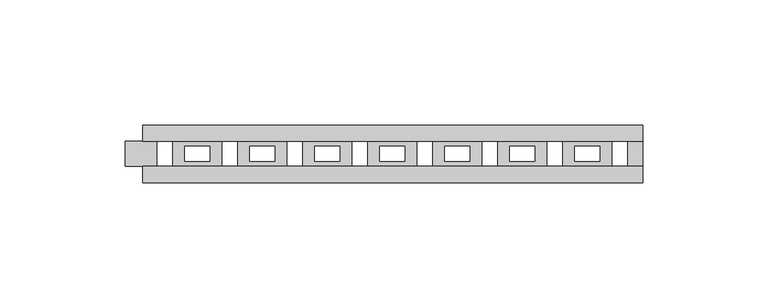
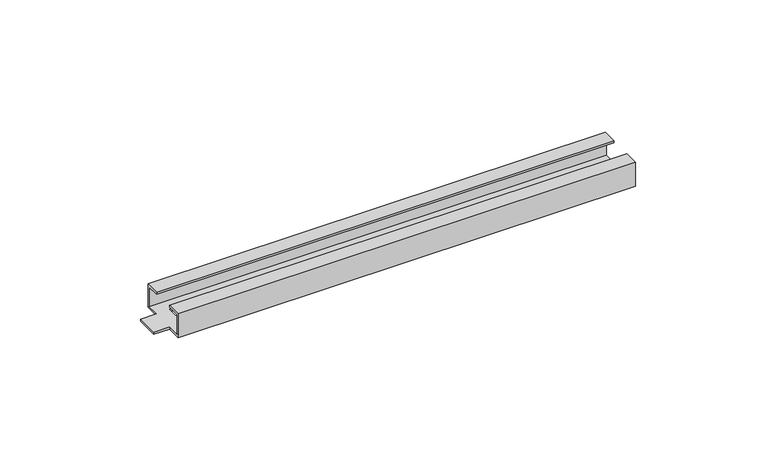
"""IFC4 building model written with IfcOpenShell, lengths in millimetres: cable carrier fitting geometry, КНС_НаправляющаяДляКрепленияДержателей_DKC : Направляющая для крепления держателей."""

import ifcopenshell
import ifcopenshell.guid

model = None  # the IFC model being written
_history = None  # IfcOwnerHistory: only IFC2X3 demands one
_inside = {}  # id of a spatial element -> (the spatial element, [elements in it])
_under = {}  # id of a project, library or spatial element -> (it, [spatial elements below it])
_declared = {}  # id of a project -> (the project, [libraries it declares])
_typed = {}  # id of a type object -> (the type object, [elements of that type])
_made_of = {}  # id of a material, layer set ... -> (it, [elements and type objects made of it])


def new_model(schema):
    """Start an empty IFC model of exactly this schema.

    Asked for "IFC4X3", IfcOpenShell would pick the latest addendum, in which some entities
    have other attributes; the version numbers below select the first issue.
    IFC2X3 requires an IfcOwnerHistory on every rooted entity: one is made here for all.
    """
    global model, _history
    if schema == "IFC4X3":
        model = ifcopenshell.file(schema_version=(4, 3, 0, 0))
    else:
        model = ifcopenshell.file(schema=schema)
    _inside.clear()
    _under.clear()
    _declared.clear()
    _typed.clear()
    _made_of.clear()
    _history = None
    if model.schema == "IFC2X3":
        org = make("IfcOrganization", Name="unknown")
        user = make(
            "IfcPersonAndOrganization",
            ThePerson=make("IfcPerson", FamilyName="unknown"),
            TheOrganization=org,
        )
        app = make(
            "IfcApplication",
            ApplicationDeveloper=org,
            Version="unknown",
            ApplicationFullName="unknown",
            ApplicationIdentifier="unknown",
        )
        _history = make(
            "IfcOwnerHistory",
            OwningUser=user,
            OwningApplication=app,
            ChangeAction="ADDED",
            CreationDate=0,
        )
    return model


def make(cls, **values):
    """One entity of the class cls with the attributes given. An attribute that is None is left unset."""
    return model.create_entity(
        cls, **{name: value for name, value in values.items() if value is not None}
    )


def rooted(cls, **values):
    """An entity with a GlobalId (a new one), such as an element, a storey or a relation."""
    return make(cls, GlobalId=ifcopenshell.guid.new(), OwnerHistory=_history, **values)


def si_unit(unit_type, name, prefix=None):
    """IfcSIUnit, for example si_unit("LENGTHUNIT", "METRE", prefix="MILLI")."""
    return make("IfcSIUnit", UnitType=unit_type, Prefix=prefix, Name=name)


def assignment(units):
    """IfcUnitAssignment: the units of a project."""
    return None if units is None else make("IfcUnitAssignment", Units=units)


def point(xyz):
    """IfcCartesianPoint."""
    return None if xyz is None else make("IfcCartesianPoint", Coordinates=xyz)


def direction(xyz):
    """IfcDirection."""
    return None if xyz is None else make("IfcDirection", DirectionRatios=xyz)


def frame(location, z_axis=None, x_axis=None):
    """IfcAxis2Placement3D, a coordinate frame: its origin and axes. An axis left out is left unset."""
    return make(
        "IfcAxis2Placement3D",
        Location=point(location),
        Axis=direction(z_axis),
        RefDirection=direction(x_axis),
    )


def origin():
    """The frame at (0, 0, 0) with its axes left unset."""
    return frame((0.0, 0.0, 0.0))


def place(relative_to, where):
    """IfcLocalPlacement: puts the frame where relative to a parent placement (None: the world)."""
    return make(
        "IfcLocalPlacement", PlacementRelTo=relative_to, RelativePlacement=where
    )


def context(
    kind, dimensions, precision=None, world=None, true_north=None, identifier=None
):
    """IfcGeometricRepresentationContext, for example the 3D "Model" context."""
    return make(
        "IfcGeometricRepresentationContext",
        ContextIdentifier=identifier,
        ContextType=kind,
        CoordinateSpaceDimension=dimensions,
        Precision=precision,
        WorldCoordinateSystem=world,
        TrueNorth=true_north,
    )


def project(units=None, contexts=None):
    """IfcProject with its units and contexts."""
    return rooted(
        "IfcProject",
        Name="project",
        RepresentationContexts=contexts,
        UnitsInContext=assignment(units),
    )


def spatial(cls, under=None, at=None, **own):
    """A site, building, storey or space (cls), placed at a placement, below another one or the project."""
    s = rooted(cls, ObjectPlacement=at, **own)
    if under is not None:
        _under.setdefault(under.id(), (under, []))[1].append(s)
    return s


def faces_of(points, faces, orient=None, outer=None):
    """IfcFace entities. A face is a list of loops; a loop is a list of indices into points, from 0.

    orient and outer hold one flag for each loop. By default every Orientation is true, the
    first loop of a face is its IfcFaceOuterBound and the others are IfcFaceBound.
    """
    made = []
    for i, loops in enumerate(faces):
        bounds = []
        for j, loop in enumerate(loops):
            is_outer = j == 0 if outer is None else outer[i][j]
            bounds.append(
                make(
                    "IfcFaceOuterBound" if is_outer else "IfcFaceBound",
                    Bound=make("IfcPolyLoop", Polygon=[points[k] for k in loop]),
                    Orientation=True if orient is None else orient[i][j],
                )
            )
        made.append(make("IfcFace", Bounds=bounds))
    return made


def faceted_brep(points, faces, orient=None, outer=None, voids=None):
    """IfcFacetedBrep: a solid bounded by flat faces; with voids (closed shells), ...WithVoids."""
    shared = [point(p) for p in points]
    hull = make("IfcClosedShell", CfsFaces=faces_of(shared, faces, orient, outer))
    if voids is None:
        return make("IfcFacetedBrep", Outer=hull)
    return make(
        "IfcFacetedBrepWithVoids",
        Outer=hull,
        Voids=[
            make(cls, CfsFaces=faces_of(shared, fs, o, b)) for cls, fs, o, b in voids
        ],
    )


def shape(context_of_items, identifier, shape_type, items):
    """IfcShapeRepresentation: the items that make up one representation, for example the "Body"."""
    return make(
        "IfcShapeRepresentation",
        ContextOfItems=context_of_items,
        RepresentationIdentifier=identifier,
        RepresentationType=shape_type,
        Items=items,
    )


def source(mapping_origin, context_of_items, identifier, shape_type, items):
    """IfcRepresentationMap: a shape defined once, which mapped items show again and again."""
    return make(
        "IfcRepresentationMap",
        MappingOrigin=mapping_origin,
        MappedRepresentation=shape(context_of_items, identifier, shape_type, items),
    )


def transform(
    local_origin,
    x_axis=None,
    y_axis=None,
    z_axis=None,
    scale=None,
    scale2=None,
    scale3=None,
    uniform=True,
):
    """IfcCartesianTransformationOperator3D, or its non-uniform kind. x_axis, y_axis, z_axis: its Axis1, 2, 3."""
    if uniform:
        return make(
            "IfcCartesianTransformationOperator3D",
            Axis1=direction(x_axis),
            Axis2=direction(y_axis),
            LocalOrigin=point(local_origin),
            Scale=scale,
            Axis3=direction(z_axis),
        )
    return make(
        "IfcCartesianTransformationOperator3DnonUniform",
        Axis1=direction(x_axis),
        Axis2=direction(y_axis),
        LocalOrigin=point(local_origin),
        Scale=scale,
        Axis3=direction(z_axis),
        Scale2=scale2,
        Scale3=scale3,
    )


def mapped(mapping_source, mapping_target):
    """IfcMappedItem: shows the shape of a source again, moved by a transform."""
    return make(
        "IfcMappedItem", MappingSource=mapping_source, MappingTarget=mapping_target
    )


def made_of(thing, what):
    """Note that an element or type object is made of a material, layer set ...; save() writes the relation."""
    if what is not None:
        _made_of.setdefault(what.id(), (what, []))[1].append(thing)
    return thing


def element(
    cls,
    number,
    at=None,
    inside=None,
    cuts=None,
    type_object=None,
    material=None,
    context=None,
    identifier="Body",
    shape_type=None,
    held_by="IfcProductDefinitionShape",
    body=None,
    shapes=None,
    **own,
):
    """One element of the class cls, such as IfcWall. Its Tag is "e" and its number.

    at: its placement. inside: the storey or other place that contains it. cuts: it is an
    opening in that element (IfcRelVoidsElement). A single representation is given by context,
    identifier, shape_type and body (its items); several are given by shapes. held_by: the class
    of the entity that holds the representations. save() writes the other relations.
    """
    e = rooted(cls, Tag="e%d" % number, ObjectPlacement=at, **own)
    if body is not None:
        shapes = [shape(context, identifier, shape_type, body)]
    if shapes is not None:
        e.Representation = make(held_by, Representations=shapes)
    if inside is not None:
        _inside.setdefault(inside.id(), (inside, []))[1].append(e)
    if cuts is not None:
        rooted(
            "IfcRelVoidsElement", RelatingBuildingElement=cuts, RelatedOpeningElement=e
        )
    if type_object is not None:
        _typed.setdefault(type_object.id(), (type_object, []))[1].append(e)
    return made_of(e, material)


def aggregate(whole, parts):
    """IfcRelAggregates: a whole, such as a stair, and the parts it consists of."""
    return rooted("IfcRelAggregates", RelatingObject=whole, RelatedObjects=parts)


def save(model, path):
    """Write the relations noted so far, then the file.

    IfcRelAggregates (storeys below a building ...), IfcRelContainedInSpatialStructure (elements
    in a storey), IfcRelDefinesByType, IfcRelAssociatesMaterial and IfcRelDeclares: one each for
    every whole, place, type object, material and project.
    """
    for whole, parts in _under.values():
        aggregate(whole, parts)
    for where, things in _inside.values():
        rooted(
            "IfcRelContainedInSpatialStructure",
            RelatedElements=things,
            RelatingStructure=where,
        )
    for kind, things in _typed.values():
        rooted("IfcRelDefinesByType", RelatedObjects=things, RelatingType=kind)
    for what, things in _made_of.values():
        rooted("IfcRelAssociatesMaterial", RelatedObjects=things, RelatingMaterial=what)
    for by, libraries in _declared.values():
        rooted("IfcRelDeclares", RelatingContext=by, RelatedDefinitions=libraries)
    model.write(path)


def cable_carrier_fitting_847e22f6(model_context):
    return source(origin(), model_context, "Body", "Brep", [
        faceted_brep([(-100.0, 5.0, 1.0), (-107.0, 5.0, 1.0), (-107.0, -5.0, 1.0), (-100.0, -5.0, 1.0), (-100.0, -10.5, 1.0), (100.0, -10.5, 1.0), (100.0, 10.5, 1.0), (-100.0, 10.5, 1.0), (-94.2402382, 5.0, 1.0), (-88.2402382, 5.0, 1.0), (-88.2402382, -5.0, 1.0), (-94.2402382, -5.0, 1.0), (-83.2402382, -3.0, 1.0), (-83.2402382, 3.0, 1.0), (-73.2402382, 3.0, 1.0), (-73.2402382, -3.0, 1.0), (-68.2402382, 5.0, 1.0), (-62.2402382, 5.0, 1.0), (-62.2402382, -5.0, 1.0), (-68.2402382, -5.0, 1.0), (-57.2402382, -3.0, 1.0), (-57.2402382, 3.0, 1.0), (-47.2402382, 3.0, 1.0), (-47.2402382, -3.0, 1.0), (-42.2402382, 5.0, 1.0), (-36.2402382, 5.0, 1.0), (-36.2402382, -5.0, 1.0), (-42.2402382, -5.0, 1.0), (-31.2402382, -3.0, 1.0), (-31.2402382, 3.0, 1.0), (-21.2402382, 3.0, 1.0), (-21.2402382, -3.0, 1.0), (-16.2402382, 5.0, 1.0), (-10.2402382, 5.0, 1.0), (-10.2402382, -5.0, 1.0), (-16.2402382, -5.0, 1.0), (-5.2402382, -3.0, 1.0), (-5.2402382, 3.0, 1.0), (4.7597618, 3.0, 1.0), (4.7597618, -3.0, 1.0), (9.7597618, 5.0, 1.0), (15.7597618, 5.0, 1.0), (15.7597618, -5.0, 1.0), (9.7597618, -5.0, 1.0), (20.7597618, -3.0, 1.0), (20.7597618, 3.0, 1.0), (30.7597618, 3.0, 1.0), (30.7597618, -3.0, 1.0), (35.7597618, 5.0, 1.0), (41.7597618, 5.0, 1.0), (41.7597618, -5.0, 1.0), (35.7597618, -5.0, 1.0), (46.7597618, -3.0, 1.0), (46.7597618, 3.0, 1.0), (56.7597618, 3.0, 1.0), (56.7597618, -3.0, 1.0), (61.7597618, 5.0, 1.0), (67.7597618, 5.0, 1.0), (67.7597618, -5.0, 1.0), (61.7597618, -5.0, 1.0), (72.7597618, -3.0, 1.0), (72.7597618, 3.0, 1.0), (82.7597618, 3.0, 1.0), (82.7597618, -3.0, 1.0), (87.7597618, 5.0, 1.0), (93.7597618, 5.0, 1.0), (93.7597618, -5.0, 1.0), (87.7597618, -5.0, 1.0), (-100.0, -5.0, 0.0), (-107.0, -5.0, 0.0), (-107.0, 5.0, 0.0), (-100.0, 5.0, 0.0), (-100.0, 11.5, 0.0), (100.0, 11.5, 0.0), (100.0, -11.5, 0.0), (-100.0, -11.5, 0.0), (-88.2402382, 5.0, 0.0), (-94.2402382, 5.0, 0.0), (-94.2402382, -5.0, 0.0), (-88.2402382, -5.0, 0.0), (-83.2402382, 3.0, 0.0), (-83.2402382, -3.0, 0.0), (-73.2402382, -3.0, 0.0), (-73.2402382, 3.0, 0.0), (-62.2402382, 5.0, 0.0), (-68.2402382, 5.0, 0.0), (-68.2402382, -5.0, 0.0), (-62.2402382, -5.0, 0.0), (-57.2402382, 3.0, 0.0), (-57.2402382, -3.0, 0.0), (-47.2402382, -3.0, 0.0), (-47.2402382, 3.0, 0.0), (-36.2402382, 5.0, 0.0), (-42.2402382, 5.0, 0.0), (-42.2402382, -5.0, 0.0), (-36.2402382, -5.0, 0.0), (-31.2402382, 3.0, 0.0), (-31.2402382, -3.0, 0.0), (-21.2402382, -3.0, 0.0), (-21.2402382, 3.0, 0.0), (-10.2402382, 5.0, 0.0), (-16.2402382, 5.0, 0.0), (-16.2402382, -5.0, 0.0), (-10.2402382, -5.0, 0.0), (-5.2402382, 3.0, 0.0), (-5.2402382, -3.0, 0.0), (4.7597618, -3.0, 0.0), (4.7597618, 3.0, 0.0), (15.7597618, 5.0, 0.0), (9.7597618, 5.0, 0.0), (9.7597618, -5.0, 0.0), (15.7597618, -5.0, 0.0), (20.7597618, 3.0, 0.0), (20.7597618, -3.0, 0.0), (30.7597618, -3.0, 0.0), (30.7597618, 3.0, 0.0), (41.7597618, 5.0, 0.0), (35.7597618, 5.0, 0.0), (35.7597618, -5.0, 0.0), (41.7597618, -5.0, 0.0), (46.7597618, 3.0, 0.0), (46.7597618, -3.0, 0.0), (56.7597618, -3.0, 0.0), (56.7597618, 3.0, 0.0), (67.7597618, 5.0, 0.0), (61.7597618, 5.0, 0.0), (61.7597618, -5.0, 0.0), (67.7597618, -5.0, 0.0), (72.7597618, 3.0, 0.0), (72.7597618, -3.0, 0.0), (82.7597618, -3.0, 0.0), (82.7597618, 3.0, 0.0), (93.7597618, 5.0, 0.0), (87.7597618, 5.0, 0.0), (87.7597618, -5.0, 0.0), (93.7597618, -5.0, 0.0), (100.0, -11.5, 11.0), (100.0, 11.5, 11.0), (100.0, 5.0, 11.0), (100.0, 5.0, 10.0), (100.0, 10.5, 10.0), (100.0, -10.5, 10.0), (100.0, -5.0, 10.0), (100.0, -5.0, 11.0), (-100.0, -11.5, 11.0), (-100.0, -5.0, 11.0), (-100.0, -5.0, 10.0), (-100.0, -10.5, 10.0), (-100.0, 10.5, 10.0), (-100.0, 5.0, 10.0), (-100.0, 5.0, 11.0), (-100.0, 11.5, 11.0)], [[[0, 1, 2, 3, 4, 5, 6, 7], [8, 9, 10, 11], [12, 13, 14, 15], [16, 17, 18, 19], [20, 21, 22, 23], [24, 25, 26, 27], [28, 29, 30, 31], [32, 33, 34, 35], [36, 37, 38, 39], [40, 41, 42, 43], [44, 45, 46, 47], [48, 49, 50, 51], [52, 53, 54, 55], [56, 57, 58, 59], [60, 61, 62, 63], [64, 65, 66, 67]], [[68, 69, 70, 71, 72, 73, 74, 75], [76, 77, 78, 79], [80, 81, 82, 83], [84, 85, 86, 87], [88, 89, 90, 91], [92, 93, 94, 95], [96, 97, 98, 99], [100, 101, 102, 103], [104, 105, 106, 107], [108, 109, 110, 111], [112, 113, 114, 115], [116, 117, 118, 119], [120, 121, 122, 123], [124, 125, 126, 127], [128, 129, 130, 131], [132, 133, 134, 135]], [[1, 0, 71, 70]], [[2, 1, 70, 69]], [[3, 2, 69, 68]], [[136, 74, 73, 137, 138, 139, 140, 6, 5, 141, 142, 143]], [[144, 145, 146, 147, 4, 3, 68, 75]], [[7, 148, 149, 150, 151, 72, 71, 0]], [[74, 136, 144, 75]], [[137, 73, 72, 151]], [[138, 137, 151, 150]], [[139, 138, 150, 149]], [[140, 139, 149, 148]], [[6, 140, 148, 7]], [[141, 5, 4, 147]], [[142, 141, 147, 146]], [[143, 142, 146, 145]], [[136, 143, 145, 144]], [[8, 77, 76, 9]], [[77, 8, 11, 78]], [[78, 11, 10, 79]], [[9, 76, 79, 10]], [[12, 81, 80, 13]], [[81, 12, 15, 82]], [[82, 15, 14, 83]], [[13, 80, 83, 14]], [[16, 85, 84, 17]], [[85, 16, 19, 86]], [[86, 19, 18, 87]], [[17, 84, 87, 18]], [[20, 89, 88, 21]], [[89, 20, 23, 90]], [[90, 23, 22, 91]], [[21, 88, 91, 22]], [[24, 93, 92, 25]], [[93, 24, 27, 94]], [[94, 27, 26, 95]], [[25, 92, 95, 26]], [[28, 97, 96, 29]], [[97, 28, 31, 98]], [[98, 31, 30, 99]], [[29, 96, 99, 30]], [[32, 101, 100, 33]], [[101, 32, 35, 102]], [[102, 35, 34, 103]], [[33, 100, 103, 34]], [[36, 105, 104, 37]], [[105, 36, 39, 106]], [[106, 39, 38, 107]], [[37, 104, 107, 38]], [[40, 109, 108, 41]], [[109, 40, 43, 110]], [[110, 43, 42, 111]], [[41, 108, 111, 42]], [[44, 113, 112, 45]], [[113, 44, 47, 114]], [[114, 47, 46, 115]], [[45, 112, 115, 46]], [[48, 117, 116, 49]], [[117, 48, 51, 118]], [[118, 51, 50, 119]], [[49, 116, 119, 50]], [[52, 121, 120, 53]], [[121, 52, 55, 122]], [[122, 55, 54, 123]], [[53, 120, 123, 54]], [[56, 125, 124, 57]], [[125, 56, 59, 126]], [[126, 59, 58, 127]], [[57, 124, 127, 58]], [[60, 129, 128, 61]], [[129, 60, 63, 130]], [[130, 63, 62, 131]], [[61, 128, 131, 62]], [[64, 133, 132, 65]], [[133, 64, 67, 134]], [[134, 67, 66, 135]], [[65, 132, 135, 66]]]),
    ])


if __name__ == "__main__":
    model = new_model("IFC4")
    model_context = context("Model", 3, world=origin())
    ifc_project = project(units=[si_unit("LENGTHUNIT", "METRE", prefix="MILLI")], contexts=[model_context])
    site = spatial("IfcSite", under=ifc_project)
    building = spatial("IfcBuilding", under=site)
    placement = place(None, origin())
    cable_carrier_fitting_shape = cable_carrier_fitting_847e22f6(model_context)
    element("IfcCableCarrierFitting", 1, ObjectType="КНС_НаправляющаяДляКрепленияДержателей_DKC : Направляющая для крепления держателей", at=placement, inside=building, context=model_context, shape_type="MappedRepresentation", body=[
        mapped(cable_carrier_fitting_shape, transform((0.0, 0.0, 0.0), x_axis=(1.0, 0.0, 0.0), y_axis=(0.0, 1.0, 0.0), z_axis=(0.0, 0.0, 1.0))),
    ])
    save(model, "model.ifc")
